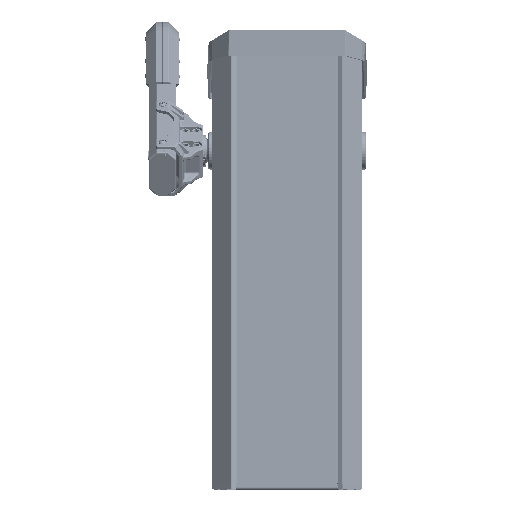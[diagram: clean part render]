
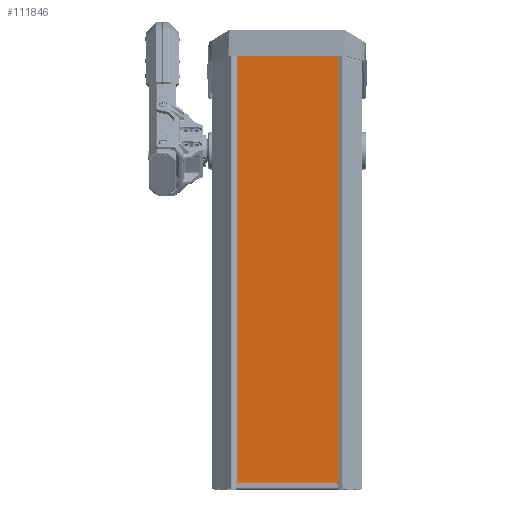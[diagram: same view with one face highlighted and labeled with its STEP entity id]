
A CAD part, front view. The second image highlights one B-rep face of the part: STEP entity #111846.
In plain terms, the highlighted planar face has unit normal (0, -1, 0) as drawn and (0, 1, 0) by its records, which use the part's own axes.
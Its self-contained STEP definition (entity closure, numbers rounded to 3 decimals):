
#6286=LINE('',#167769,#14777);
#6290=LINE('',#167778,#14781);
#6296=LINE('',#167792,#14787);
#6300=LINE('',#167801,#14791);
#6306=LINE('',#167818,#14797);
#6307=LINE('',#167819,#14798);
#6308=LINE('',#167820,#14799);
#6309=LINE('',#167821,#14800);
#14777=VECTOR('',#136340,1000.);
#14781=VECTOR('',#136346,1000.);
#14787=VECTOR('',#136354,1000.);
#14791=VECTOR('',#136360,1000.);
#14797=VECTOR('',#136378,1000.);
#14798=VECTOR('',#136379,1000.);
#14799=VECTOR('',#136380,1000.);
#14800=VECTOR('',#136381,1000.);
#23732=PLANE('',#124036);
#27821=ORIENTED_EDGE('',*,*,#61548,.T.);
#27822=ORIENTED_EDGE('',*,*,#61549,.T.);
#27823=ORIENTED_EDGE('',*,*,#61536,.F.);
#27824=ORIENTED_EDGE('',*,*,#61550,.T.);
#27825=ORIENTED_EDGE('',*,*,#61530,.F.);
#27826=ORIENTED_EDGE('',*,*,#61551,.T.);
#27827=ORIENTED_EDGE('',*,*,#61526,.F.);
#27828=ORIENTED_EDGE('',*,*,#61552,.T.);
#27829=ORIENTED_EDGE('',*,*,#61540,.F.);
#27830=ORIENTED_EDGE('',*,*,#61553,.T.);
#61526=EDGE_CURVE('',#78500,#78501,#6286,.T.);
#61530=EDGE_CURVE('',#78504,#78505,#6290,.T.);
#61536=EDGE_CURVE('',#78510,#78511,#6296,.T.);
#61540=EDGE_CURVE('',#78514,#78515,#6300,.T.);
#61548=EDGE_CURVE('',#78518,#78518,#88986,.T.);
#61549=EDGE_CURVE('',#78519,#78519,#88987,.T.);
#61550=EDGE_CURVE('',#78510,#78505,#6306,.F.);
#61551=EDGE_CURVE('',#78504,#78501,#6307,.F.);
#61552=EDGE_CURVE('',#78500,#78515,#6308,.F.);
#61553=EDGE_CURVE('',#78514,#78511,#6309,.F.);
#78500=VERTEX_POINT('',#167770);
#78501=VERTEX_POINT('',#167771);
#78504=VERTEX_POINT('',#167779);
#78505=VERTEX_POINT('',#167780);
#78510=VERTEX_POINT('',#167791);
#78511=VERTEX_POINT('',#167793);
#78514=VERTEX_POINT('',#167800);
#78515=VERTEX_POINT('',#167802);
#78518=VERTEX_POINT('',#167815);
#78519=VERTEX_POINT('',#167817);
#88986=CIRCLE('',#124037,5.25);
#88987=CIRCLE('',#124038,5.25);
#93963=EDGE_LOOP('',(#27821));
#93964=EDGE_LOOP('',(#27822));
#93965=EDGE_LOOP('',(#27823,#27824,#27825,#27826,#27827,#27828,#27829,#27830));
#101828=FACE_BOUND('',#93963,.T.);
#101829=FACE_BOUND('',#93964,.T.);
#101830=FACE_BOUND('',#93965,.T.);
#111846=ADVANCED_FACE('',(#101828,#101829,#101830),#23732,.F.);
#124036=AXIS2_PLACEMENT_3D('',#167813,#136372,#136373);
#124037=AXIS2_PLACEMENT_3D('',#167814,#136374,#136375);
#124038=AXIS2_PLACEMENT_3D('',#167816,#136376,#136377);
#136340=DIRECTION('',(0.,0.,-1.));
#136346=DIRECTION('',(1.,0.,0.));
#136354=DIRECTION('',(0.,0.,1.));
#136360=DIRECTION('',(-1.,0.,0.));
#136372=DIRECTION('',(0.,-1.,0.));
#136373=DIRECTION('',(0.,0.,-1.));
#136374=DIRECTION('',(0.,-1.,0.));
#136375=DIRECTION('',(0.,0.,-1.));
#136376=DIRECTION('',(0.,-1.,0.));
#136377=DIRECTION('',(0.,0.,-1.));
#136378=DIRECTION('',(0.707,0.,0.707));
#136379=DIRECTION('',(0.707,0.,-0.707));
#136380=DIRECTION('',(-0.707,0.,-0.707));
#136381=DIRECTION('',(-0.707,0.,0.707));
#167769=CARTESIAN_POINT('',(-108.3,0.,862.));
#167770=CARTESIAN_POINT('',(-108.3,0.,860.));
#167771=CARTESIAN_POINT('',(-108.3,0.,2.));
#167778=CARTESIAN_POINT('',(-108.3,0.,0.));
#167779=CARTESIAN_POINT('',(-106.3,0.,0.));
#167780=CARTESIAN_POINT('',(106.3,0.,0.));
#167791=CARTESIAN_POINT('',(108.3,0.,2.));
#167792=CARTESIAN_POINT('',(108.3,0.,0.));
#167793=CARTESIAN_POINT('',(108.3,0.,860.));
#167800=CARTESIAN_POINT('',(106.3,0.,862.));
#167801=CARTESIAN_POINT('',(108.3,0.,862.));
#167802=CARTESIAN_POINT('',(-106.3,0.,862.));
#167813=CARTESIAN_POINT('',(-108.3,0.,0.));
#167814=CARTESIAN_POINT('',(-85.,0.,7.));
#167815=CARTESIAN_POINT('',(-85.,0.,1.75));
#167816=CARTESIAN_POINT('',(85.,0.,7.));
#167817=CARTESIAN_POINT('',(85.,0.,1.75));
#167818=CARTESIAN_POINT('',(108.3,0.,2.));
#167819=CARTESIAN_POINT('',(-106.3,0.,0.));
#167820=CARTESIAN_POINT('',(-108.3,0.,860.));
#167821=CARTESIAN_POINT('',(106.3,0.,862.));
